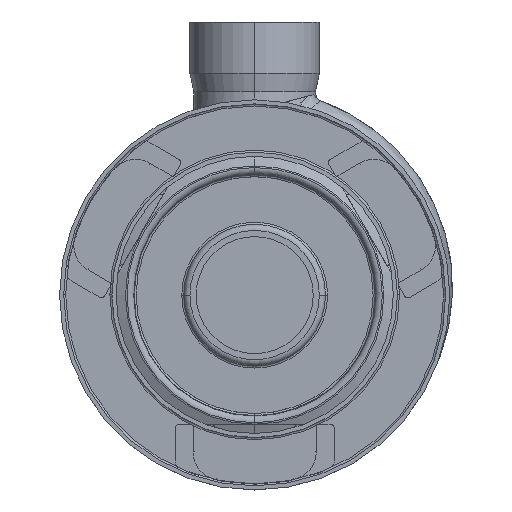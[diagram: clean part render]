
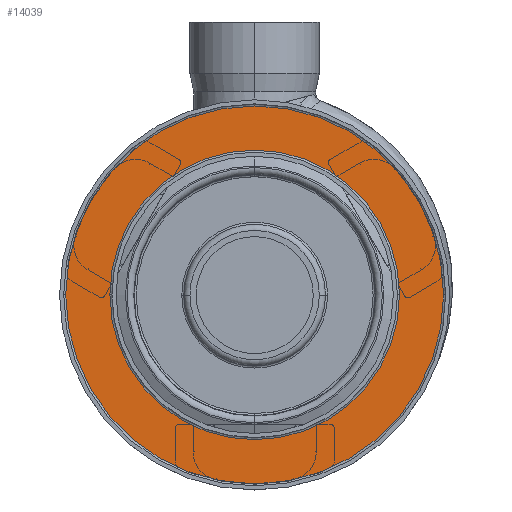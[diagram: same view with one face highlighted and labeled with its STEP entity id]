
A CAD part, top view. The second image highlights one B-rep face of the part: STEP entity #14039.
In plain terms, the highlighted planar face has unit normal (0, 0, 1) as drawn and (-1, 0, 0) by its records, which use the part's own axes.
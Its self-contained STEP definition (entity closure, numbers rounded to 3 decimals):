
#13721=CARTESIAN_POINT('',(6.,0.,0.));
#13722=DIRECTION('',(1.,0.,0.));
#13723=DIRECTION('',(0.,1.,0.));
#13724=AXIS2_PLACEMENT_3D('',#13721,#13722,#13723);
#13726=CARTESIAN_POINT('',(6.,0.,0.));
#13727=DIRECTION('',(1.,0.,0.));
#13728=DIRECTION('',(0.,-1.,0.));
#13729=AXIS2_PLACEMENT_3D('',#13726,#13727,#13728);
#13731=CARTESIAN_POINT('',(6.,0.,0.));
#13732=DIRECTION('',(1.,0.,0.));
#13733=DIRECTION('',(0.,1.,0.));
#13734=AXIS2_PLACEMENT_3D('',#13731,#13732,#13733);
#13736=CARTESIAN_POINT('',(6.,0.,0.));
#13737=DIRECTION('',(1.,0.,0.));
#13738=DIRECTION('',(0.,-1.,0.));
#13739=AXIS2_PLACEMENT_3D('',#13736,#13737,#13738);
#13841=CARTESIAN_POINT('',(6.,92.,0.));
#13842=CARTESIAN_POINT('',(6.,-92.,0.));
#13843=VERTEX_POINT('',#13841);
#13844=VERTEX_POINT('',#13842);
#13853=CARTESIAN_POINT('',(6.,70.5,0.));
#13854=CARTESIAN_POINT('',(6.,-70.5,0.));
#13855=VERTEX_POINT('',#13853);
#13856=VERTEX_POINT('',#13854);
#14023=CARTESIAN_POINT('',(6.,0.,0.));
#14024=DIRECTION('',(1.,0.,0.));
#14025=DIRECTION('',(0.,-1.,0.));
#14026=AXIS2_PLACEMENT_3D('',#14023,#14024,#14025);
#14027=PLANE('',#14026);
#14028=ORIENTED_EDGE('',*,*,#14013,.T.);
#14030=ORIENTED_EDGE('',*,*,#14029,.T.);
#14031=EDGE_LOOP('',(#14028,#14030));
#14032=FACE_OUTER_BOUND('',#14031,.F.);
#14034=ORIENTED_EDGE('',*,*,#14033,.F.);
#14036=ORIENTED_EDGE('',*,*,#14035,.F.);
#14037=EDGE_LOOP('',(#14034,#14036));
#14038=FACE_BOUND('',#14037,.F.);
#14039=ADVANCED_FACE('',(#14032,#14038),#14027,.F.);
#13725=CIRCLE('',#13724,92.);
#13730=CIRCLE('',#13729,92.);
#13735=CIRCLE('',#13734,70.5);
#13740=CIRCLE('',#13739,70.5);
#14013=EDGE_CURVE('',#13843,#13844,#13725,.T.);
#14029=EDGE_CURVE('',#13844,#13843,#13730,.T.);
#14033=EDGE_CURVE('',#13855,#13856,#13735,.T.);
#14035=EDGE_CURVE('',#13856,#13855,#13740,.T.);
